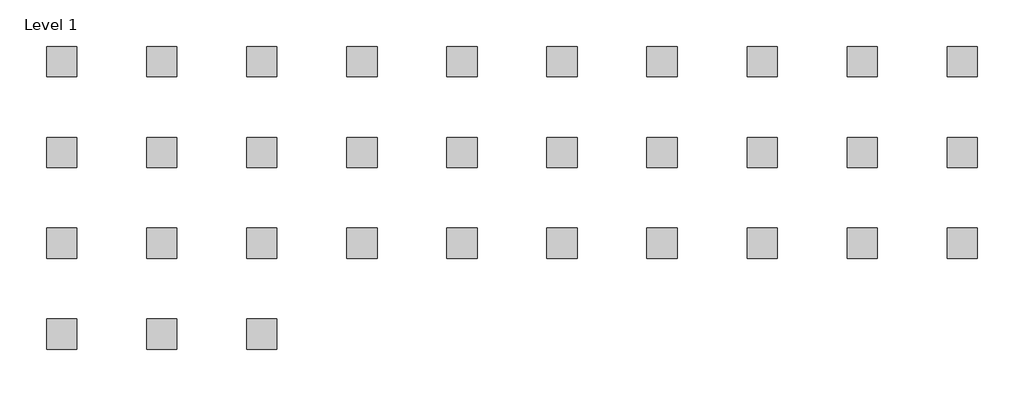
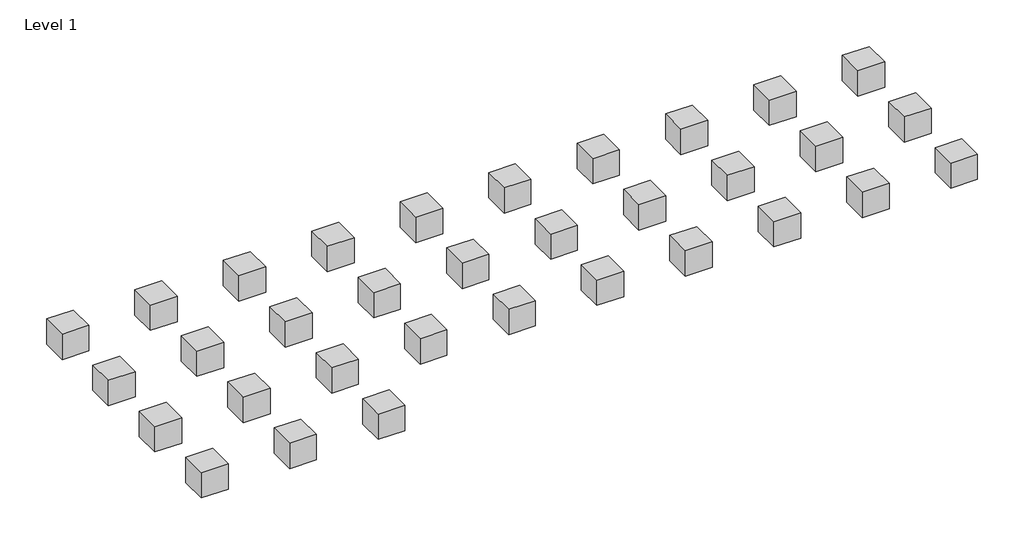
# One storey: 33 proxies.
"""IFC4 building model written with IfcOpenShell, lengths in millimetres."""

from ifc_helpers import new_model, si_unit, origin, place, context, project, spatial, transform, mapped, element, save
from components import box_box_eb486f9c

model = new_model("IFC4")

# Units and contexts
model_context = context("Model", 3, world=origin())
ifc_project = project(units=[si_unit("LENGTHUNIT", "METRE", prefix="MILLI")], contexts=[model_context])

# Site, building, storey
site = spatial("IfcSite", under=ifc_project)
building = spatial("IfcBuilding", under=site)
storey = spatial("IfcBuildingStorey", under=building, Name="Level 1", Elevation=0.0)

# Proxies
placement = place(None, origin())
box_box_shape = box_box_eb486f9c(model_context)
element("IfcBuildingElementProxy", 1, Name="BOX : BOX", ObjectType="BOX : BOX", at=placement, inside=storey, context=model_context, shape_type="MappedRepresentation", body=[
    mapped(box_box_shape, transform((-3900.0, -1100.0, 0.0), x_axis=(1.0, 0.0, 0.0), y_axis=(0.0, 1.0, 0.0), z_axis=(0.0, 0.0, 1.0))),
])
element("IfcBuildingElementProxy", 2, Name="BOX1 : BOX", ObjectType="BOX1 : BOX", at=placement, inside=storey, context=model_context, shape_type="MappedRepresentation", body=[
    mapped(box_box_shape, transform((-600.0, -1100.0, 0.0), x_axis=(1.0, 0.0, 0.0), y_axis=(0.0, 1.0, 0.0), z_axis=(0.0, 0.0, 1.0))),
])
element("IfcBuildingElementProxy", 3, Name="BOX10 : BOX", ObjectType="BOX10 : BOX", at=placement, inside=storey, context=model_context, shape_type="MappedRepresentation", body=[
    mapped(box_box_shape, transform((-3900.0, -4100.0, 0.0), x_axis=(1.0, 0.0, 0.0), y_axis=(0.0, 1.0, 0.0), z_axis=(0.0, 0.0, 1.0))),
])
element("IfcBuildingElementProxy", 4, Name="BOX11 : BOX", ObjectType="BOX11 : BOX", at=placement, inside=storey, context=model_context, shape_type="MappedRepresentation", body=[
    mapped(box_box_shape, transform((-600.0, -4100.0, 0.0), x_axis=(1.0, 0.0, 0.0), y_axis=(0.0, 1.0, 0.0), z_axis=(0.0, 0.0, 1.0))),
])
element("IfcBuildingElementProxy", 5, Name="BOX12 : BOX", ObjectType="BOX12 : BOX", at=placement, inside=storey, context=model_context, shape_type="MappedRepresentation", body=[
    mapped(box_box_shape, transform((2700.0, -4100.0, 0.0), x_axis=(1.0, 0.0, 0.0), y_axis=(0.0, 1.0, 0.0), z_axis=(0.0, 0.0, 1.0))),
])
element("IfcBuildingElementProxy", 6, Name="BOX13 : BOX", ObjectType="BOX13 : BOX", at=placement, inside=storey, context=model_context, shape_type="MappedRepresentation", body=[
    mapped(box_box_shape, transform((6000.0, -4100.0, 0.0), x_axis=(1.0, 0.0, 0.0), y_axis=(0.0, 1.0, 0.0), z_axis=(0.0, 0.0, 1.0))),
])
element("IfcBuildingElementProxy", 7, Name="BOX14 : BOX", ObjectType="BOX14 : BOX", at=placement, inside=storey, context=model_context, shape_type="MappedRepresentation", body=[
    mapped(box_box_shape, transform((9300.0, -4100.0, 0.0), x_axis=(1.0, 0.0, 0.0), y_axis=(0.0, 1.0, 0.0), z_axis=(0.0, 0.0, 1.0))),
])
element("IfcBuildingElementProxy", 8, Name="BOX15 : BOX", ObjectType="BOX15 : BOX", at=placement, inside=storey, context=model_context, shape_type="MappedRepresentation", body=[
    mapped(box_box_shape, transform((12600.0, -4100.0, 0.0), x_axis=(1.0, 0.0, 0.0), y_axis=(0.0, 1.0, 0.0), z_axis=(0.0, 0.0, 1.0))),
])
element("IfcBuildingElementProxy", 9, Name="BOX16 : BOX", ObjectType="BOX16 : BOX", at=placement, inside=storey, context=model_context, shape_type="MappedRepresentation", body=[
    mapped(box_box_shape, transform((15900.0, -4100.0, 0.0), x_axis=(1.0, 0.0, 0.0), y_axis=(0.0, 1.0, 0.0), z_axis=(0.0, 0.0, 1.0))),
])
element("IfcBuildingElementProxy", 10, Name="BOX17 : BOX", ObjectType="BOX17 : BOX", at=placement, inside=storey, context=model_context, shape_type="MappedRepresentation", body=[
    mapped(box_box_shape, transform((19200.0, -4100.0, 0.0), x_axis=(1.0, 0.0, 0.0), y_axis=(0.0, 1.0, 0.0), z_axis=(0.0, 0.0, 1.0))),
])
element("IfcBuildingElementProxy", 11, Name="BOX18 : BOX", ObjectType="BOX18 : BOX", at=placement, inside=storey, context=model_context, shape_type="MappedRepresentation", body=[
    mapped(box_box_shape, transform((22500.0, -4100.0, 0.0), x_axis=(1.0, 0.0, 0.0), y_axis=(0.0, 1.0, 0.0), z_axis=(0.0, 0.0, 1.0))),
])
element("IfcBuildingElementProxy", 12, Name="BOX19 : BOX", ObjectType="BOX19 : BOX", at=placement, inside=storey, context=model_context, shape_type="MappedRepresentation", body=[
    mapped(box_box_shape, transform((25800.0, -4100.0, 0.0), x_axis=(1.0, 0.0, 0.0), y_axis=(0.0, 1.0, 0.0), z_axis=(0.0, 0.0, 1.0))),
])
element("IfcBuildingElementProxy", 13, Name="BOX2 : BOX", ObjectType="BOX2 : BOX", at=placement, inside=storey, context=model_context, shape_type="MappedRepresentation", body=[
    mapped(box_box_shape, transform((2700.0, -1100.0, 0.0), x_axis=(1.0, 0.0, 0.0), y_axis=(0.0, 1.0, 0.0), z_axis=(0.0, 0.0, 1.0))),
])
element("IfcBuildingElementProxy", 14, Name="BOX20 : BOX", ObjectType="BOX20 : BOX", at=placement, inside=storey, context=model_context, shape_type="MappedRepresentation", body=[
    mapped(box_box_shape, transform((-3900.0, -7100.0, 0.0), x_axis=(1.0, 0.0, 0.0), y_axis=(0.0, 1.0, 0.0), z_axis=(0.0, 0.0, 1.0))),
])
element("IfcBuildingElementProxy", 15, Name="BOX21 : BOX", ObjectType="BOX21 : BOX", at=placement, inside=storey, context=model_context, shape_type="MappedRepresentation", body=[
    mapped(box_box_shape, transform((-600.0, -7100.0, 0.0), x_axis=(1.0, 0.0, 0.0), y_axis=(0.0, 1.0, 0.0), z_axis=(0.0, 0.0, 1.0))),
])
element("IfcBuildingElementProxy", 16, Name="BOX22 : BOX", ObjectType="BOX22 : BOX", at=placement, inside=storey, context=model_context, shape_type="MappedRepresentation", body=[
    mapped(box_box_shape, transform((2700.0, -7100.0, 0.0), x_axis=(1.0, 0.0, 0.0), y_axis=(0.0, 1.0, 0.0), z_axis=(0.0, 0.0, 1.0))),
])
element("IfcBuildingElementProxy", 17, Name="BOX23 : BOX", ObjectType="BOX23 : BOX", at=placement, inside=storey, context=model_context, shape_type="MappedRepresentation", body=[
    mapped(box_box_shape, transform((6000.0, -7100.0, 0.0), x_axis=(1.0, 0.0, 0.0), y_axis=(0.0, 1.0, 0.0), z_axis=(0.0, 0.0, 1.0))),
])
element("IfcBuildingElementProxy", 18, Name="BOX24 : BOX", ObjectType="BOX24 : BOX", at=placement, inside=storey, context=model_context, shape_type="MappedRepresentation", body=[
    mapped(box_box_shape, transform((9300.0, -7100.0, 0.0), x_axis=(1.0, 0.0, 0.0), y_axis=(0.0, 1.0, 0.0), z_axis=(0.0, 0.0, 1.0))),
])
element("IfcBuildingElementProxy", 19, Name="BOX25 : BOX", ObjectType="BOX25 : BOX", at=placement, inside=storey, context=model_context, shape_type="MappedRepresentation", body=[
    mapped(box_box_shape, transform((12600.0, -7100.0, 0.0), x_axis=(1.0, 0.0, 0.0), y_axis=(0.0, 1.0, 0.0), z_axis=(0.0, 0.0, 1.0))),
])
element("IfcBuildingElementProxy", 20, Name="BOX26 : BOX", ObjectType="BOX26 : BOX", at=placement, inside=storey, context=model_context, shape_type="MappedRepresentation", body=[
    mapped(box_box_shape, transform((15900.0, -7100.0, 0.0), x_axis=(1.0, 0.0, 0.0), y_axis=(0.0, 1.0, 0.0), z_axis=(0.0, 0.0, 1.0))),
])
element("IfcBuildingElementProxy", 21, Name="BOX27 : BOX", ObjectType="BOX27 : BOX", at=placement, inside=storey, context=model_context, shape_type="MappedRepresentation", body=[
    mapped(box_box_shape, transform((19200.0, -7100.0, 0.0), x_axis=(1.0, 0.0, 0.0), y_axis=(0.0, 1.0, 0.0), z_axis=(0.0, 0.0, 1.0))),
])
element("IfcBuildingElementProxy", 22, Name="BOX28 : BOX", ObjectType="BOX28 : BOX", at=placement, inside=storey, context=model_context, shape_type="MappedRepresentation", body=[
    mapped(box_box_shape, transform((22500.0, -7100.0, 0.0), x_axis=(1.0, 0.0, 0.0), y_axis=(0.0, 1.0, 0.0), z_axis=(0.0, 0.0, 1.0))),
])
element("IfcBuildingElementProxy", 23, Name="BOX29 : BOX", ObjectType="BOX29 : BOX", at=placement, inside=storey, context=model_context, shape_type="MappedRepresentation", body=[
    mapped(box_box_shape, transform((25800.0, -7100.0, 0.0), x_axis=(1.0, 0.0, 0.0), y_axis=(0.0, 1.0, 0.0), z_axis=(0.0, 0.0, 1.0))),
])
element("IfcBuildingElementProxy", 24, Name="BOX3 : BOX", ObjectType="BOX3 : BOX", at=placement, inside=storey, context=model_context, shape_type="MappedRepresentation", body=[
    mapped(box_box_shape, transform((6000.0, -1100.0, 0.0), x_axis=(1.0, 0.0, 0.0), y_axis=(0.0, 1.0, 0.0), z_axis=(0.0, 0.0, 1.0))),
])
element("IfcBuildingElementProxy", 25, Name="BOX30 : BOX", ObjectType="BOX30 : BOX", at=placement, inside=storey, context=model_context, shape_type="MappedRepresentation", body=[
    mapped(box_box_shape, transform((-3900.0, -10100.0, 0.0), x_axis=(1.0, 0.0, 0.0), y_axis=(0.0, 1.0, 0.0), z_axis=(0.0, 0.0, 1.0))),
])
element("IfcBuildingElementProxy", 26, Name="BOX31 : BOX", ObjectType="BOX31 : BOX", at=placement, inside=storey, context=model_context, shape_type="MappedRepresentation", body=[
    mapped(box_box_shape, transform((-600.0, -10100.0, 0.0), x_axis=(1.0, 0.0, 0.0), y_axis=(0.0, 1.0, 0.0), z_axis=(0.0, 0.0, 1.0))),
])
element("IfcBuildingElementProxy", 27, Name="BOX32 : BOX", ObjectType="BOX32 : BOX", at=placement, inside=storey, context=model_context, shape_type="MappedRepresentation", body=[
    mapped(box_box_shape, transform((2700.0, -10100.0, 0.0), x_axis=(1.0, 0.0, 0.0), y_axis=(0.0, 1.0, 0.0), z_axis=(0.0, 0.0, 1.0))),
])
element("IfcBuildingElementProxy", 28, Name="BOX4 : BOX", ObjectType="BOX4 : BOX", at=placement, inside=storey, context=model_context, shape_type="MappedRepresentation", body=[
    mapped(box_box_shape, transform((9300.0, -1100.0, 0.0), x_axis=(1.0, 0.0, 0.0), y_axis=(0.0, 1.0, 0.0), z_axis=(0.0, 0.0, 1.0))),
])
element("IfcBuildingElementProxy", 29, Name="BOX5 : BOX", ObjectType="BOX5 : BOX", at=placement, inside=storey, context=model_context, shape_type="MappedRepresentation", body=[
    mapped(box_box_shape, transform((12600.0, -1100.0, 0.0), x_axis=(1.0, 0.0, 0.0), y_axis=(0.0, 1.0, 0.0), z_axis=(0.0, 0.0, 1.0))),
])
element("IfcBuildingElementProxy", 30, Name="BOX6 : BOX", ObjectType="BOX6 : BOX", at=placement, inside=storey, context=model_context, shape_type="MappedRepresentation", body=[
    mapped(box_box_shape, transform((15900.0, -1100.0, 0.0), x_axis=(1.0, 0.0, 0.0), y_axis=(0.0, 1.0, 0.0), z_axis=(0.0, 0.0, 1.0))),
])
element("IfcBuildingElementProxy", 31, Name="BOX7 : BOX", ObjectType="BOX7 : BOX", at=placement, inside=storey, context=model_context, shape_type="MappedRepresentation", body=[
    mapped(box_box_shape, transform((19200.0, -1100.0, 0.0), x_axis=(1.0, 0.0, 0.0), y_axis=(0.0, 1.0, 0.0), z_axis=(0.0, 0.0, 1.0))),
])
element("IfcBuildingElementProxy", 32, Name="BOX8 : BOX", ObjectType="BOX8 : BOX", at=placement, inside=storey, context=model_context, shape_type="MappedRepresentation", body=[
    mapped(box_box_shape, transform((22500.0, -1100.0, 0.0), x_axis=(1.0, 0.0, 0.0), y_axis=(0.0, 1.0, 0.0), z_axis=(0.0, 0.0, 1.0))),
])
element("IfcBuildingElementProxy", 33, Name="BOX9 : BOX", ObjectType="BOX9 : BOX", at=placement, inside=storey, context=model_context, shape_type="MappedRepresentation", body=[
    mapped(box_box_shape, transform((25800.0, -1100.0, 0.0), x_axis=(1.0, 0.0, 0.0), y_axis=(0.0, 1.0, 0.0), z_axis=(0.0, 0.0, 1.0))),
])

save(model, "model.ifc")
